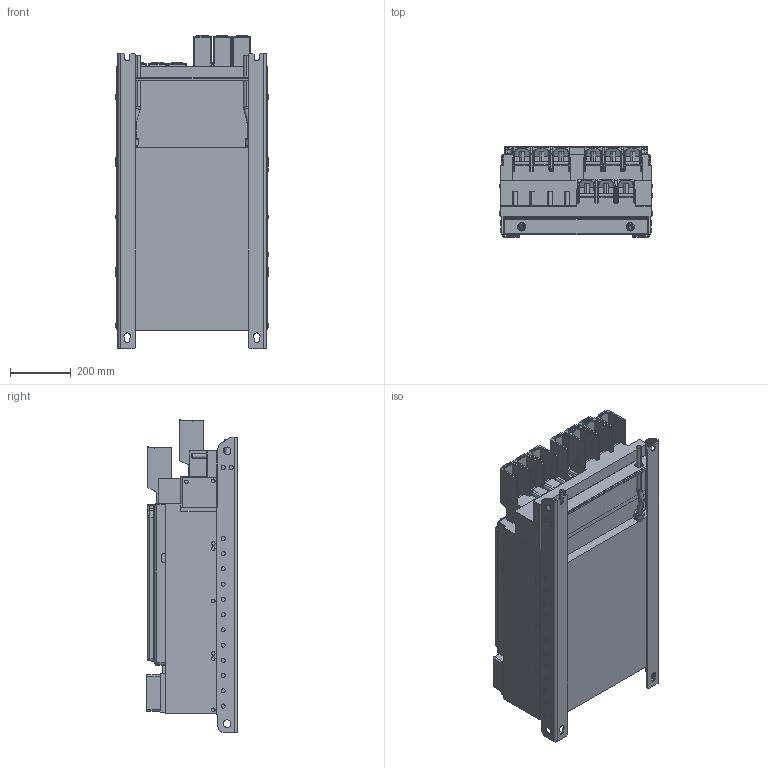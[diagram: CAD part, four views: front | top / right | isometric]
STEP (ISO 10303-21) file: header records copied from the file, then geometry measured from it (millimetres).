
FILE_DESCRIPTION (( 'STEP AP214' ), '1' );
FILE_NAME ('F6-9-TK0-A010.STEP', '2023-11-27T12:55:53', ( '' ), ( '' ), 'SwSTEP 2.0', 'SolidWorks 2022', '' );
FILE_SCHEMA (( 'AUTOMOTIVE_DESIGN' ));
Length unit declared in the file: millimetre
Products named in the file (12): Kundenmodell^10054881_000; 10054881_000_Deckel (Kundenmodell); 10064851_000_Kundenmodell (ohne BW); F6-9-TK0-A010; 10068648_000_Kundenmodell; Kundenmodell^10044643_000; 10049764_000_Kundenmodell; Kundenmodell^10068648_000; 10044643_000_Kundenmodell; Kundenmodell^10059764_000; Kundenmodell^10049764_000; 10059764_000_Blindabdeckung (Kundenmodell)
Assembly tree (11 placements, depth 4):
  F6-9-TK0-A010
    10064851_000_Kundenmodell (ohne BW)
      10068648_000_Kundenmodell
        Kundenmodell^10068648_000
    10049764_000_Kundenmodell
      Kundenmodell^10049764_000
    10044643_000_Kundenmodell
      10059764_000_Blindabdeckung (Kundenmodell)
        Kundenmodell^10059764_000
      Kundenmodell^10044643_000
    10054881_000_Deckel (Kundenmodell)
      Kundenmodell^10054881_000
Bounding box: 502.5 x 296.5 x 1028.38 mm (x, y, z)
Volume: 94351696.2 mm3; surface area: 4347555.9 mm2
Topology: 5 solids, 7 shells, 2871 faces, 7382 edges, 4615 vertices
Faces by surface type: plane 1309, cylinder 942, bspline 274, cone 179, sphere 92, torus 75
Entity records: 95493 total; most frequent: CARTESIAN_POINT 27333, ORIENTED_EDGE 14596, DIRECTION 13567, EDGE_CURVE 7298, AXIS2_PLACEMENT_3D 4638, VERTEX_POINT 4615, VECTOR 4291, LINE 4291
